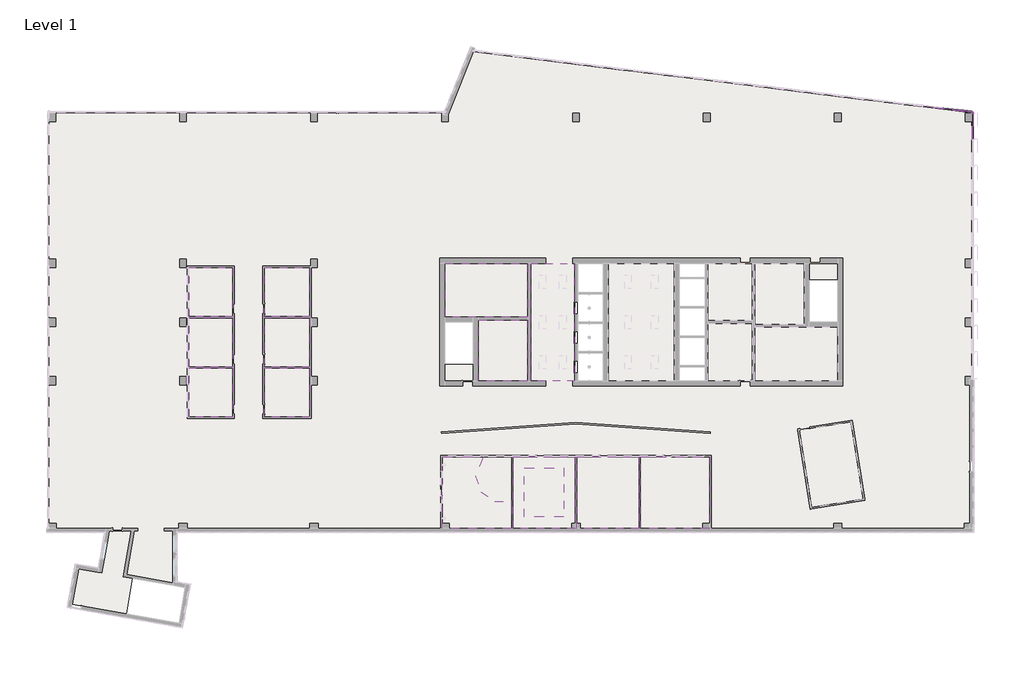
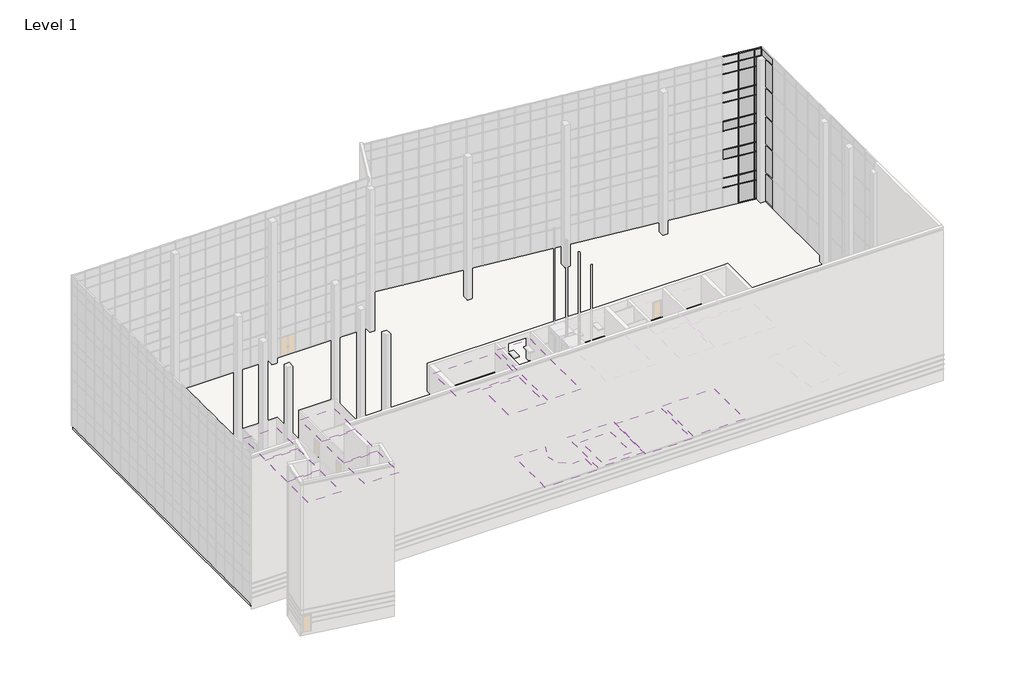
# One storey, part 22 of 23: 57 members, 30 plates, 14 coverings, 1 slab.
"""IFC4 building model written with IfcOpenShell, lengths in millimetres."""

from ifc_helpers import new_model, si_unit, point, frame, frame_2d, origin, place, context, project, spatial, polyline, circle_curve, trimmed, segment, composite_curve, outline, extrude, transform, mapped, element, save
from components import member_148ee976, member_2b49869a, member_f92b8aa2, member_810865a4, member_f0fea5a5, member_6d5c3e5e, member_9764dd38, member_b8a9be14, member_51d7af99, member_28d637ce, member_84e75425, member_62aeda4f, member_2ab0c01c, system_panel_glazed_14c75400, system_panel_glazed_cc37a7cc, system_panel_glazed_4e55321f, system_panel_glazed_b79bd3cf, system_panel_solid_5dfe6f83, system_panel_solid_e25e2004, system_panel_solid_b7551183, system_panel_solid_72787f54, system_panel_solid_2f76c253, system_panel_solid_52d708f1

model = new_model("IFC4")

# Units and contexts
model_context = context("Model", 3, world=origin())
ifc_project = project(units=[si_unit("LENGTHUNIT", "METRE", prefix="MILLI")], contexts=[model_context])

# Site, building, storey
site = spatial("IfcSite", under=ifc_project)
building = spatial("IfcBuilding", under=site)
storey = spatial("IfcBuildingStorey", under=building, Name="Level 1", Elevation=0.0)

# Coverings
placement = place(None, origin())
element("IfcCovering", 1, ObjectType="2' x 2' ACT System", at=placement, inside=storey, context=model_context, shape_type="SweptSolid", body=[
    extrude(outline(polyline([(-49131.3999355, -4066.5103492), (-44991.1999355, -4066.5103492), (-44991.1999355, -8511.5103492), (-49131.3999355, -8511.5103492), (-49131.3999355, -4066.5103492)])), frame((0.0, 0.0, 2438.4), z_axis=(0.0, 0.0, 1.0), x_axis=(1.0, 0.0, 0.0)), (0.0, 0.0, 1.0), 57.15),
])
element("IfcCovering", 2, ObjectType="2' x 2' ACT System", at=placement, inside=storey, context=model_context, shape_type="SweptSolid", body=[
    extrude(outline(polyline([(-44991.1999355, -8638.5103492), (-44991.1999355, -13083.5103492), (-49131.3999355, -13083.5103492), (-49131.3999355, -8638.5103492), (-44991.1999355, -8638.5103492)])), frame((0.0, 0.0, 2438.4), z_axis=(0.0, 0.0, 1.0), x_axis=(1.0, 0.0, 0.0)), (0.0, 0.0, 1.0), 57.15),
])
element("IfcCovering", 3, ObjectType="2' x 2' ACT System", at=placement, inside=storey, context=model_context, shape_type="SweptSolid", body=[
    extrude(outline(polyline([(-44991.1999355, -13210.5103492), (-44991.1999355, -17655.5103492), (-49131.3999355, -17655.5103492), (-49131.3999355, -13210.5103492), (-44991.1999355, -13210.5103492)])), frame((0.0, 0.0, 2438.4), z_axis=(0.0, 0.0, 1.0), x_axis=(1.0, 0.0, 0.0)), (0.0, 0.0, 1.0), 57.15),
])
element("IfcCovering", 4, ObjectType="2' x 2' ACT System", at=placement, inside=storey, context=model_context, shape_type="SweptSolid", body=[
    extrude(outline(polyline([(-51987.0856498, -17655.5103492), (-56000.2856498, -17655.5103492), (-56000.2856498, -13210.5103492), (-51987.0856498, -13210.5103492), (-51987.0856498, -17655.5103492)])), frame((0.0, 0.0, 2438.4), z_axis=(0.0, 0.0, 1.0), x_axis=(1.0, 0.0, 0.0)), (0.0, 0.0, 1.0), 57.15),
])
element("IfcCovering", 5, ObjectType="2' x 2' ACT System", at=placement, inside=storey, context=model_context, shape_type="SweptSolid", body=[
    extrude(outline(polyline([(-56000.2856498, -13083.5103492), (-56000.2856498, -8638.5103492), (-51987.0856498, -8638.5103492), (-51987.0856498, -13083.5103492), (-56000.2856498, -13083.5103492)])), frame((0.0, 0.0, 2438.4), z_axis=(0.0, 0.0, 1.0), x_axis=(1.0, 0.0, 0.0)), (0.0, 0.0, 1.0), 57.15),
])
element("IfcCovering", 6, ObjectType="2' x 2' ACT System", at=placement, inside=storey, context=model_context, shape_type="SweptSolid", body=[
    extrude(outline(polyline([(-56000.2856498, -8511.5103492), (-56000.2856498, -4066.5103492), (-51987.0856498, -4066.5103492), (-51987.0856498, -8511.5103492), (-56000.2856498, -8511.5103492)])), frame((0.0, 0.0, 2438.4), z_axis=(0.0, 0.0, 1.0), x_axis=(1.0, 0.0, 0.0)), (0.0, 0.0, 1.0), 57.15),
])
element("IfcCovering", 7, ObjectType="2' x 4' ACT System", at=placement, inside=storey, context=model_context, shape_type="SweptSolid", body=[
    extrude(outline(polyline([(-15145.2927926, -21262.3103492), (-15145.2927926, -27729.7853492), (-20814.0285069, -27729.7853492), (-20814.0285069, -21262.3103492), (-15145.2927926, -21262.3103492)]), holes=[polyline([(-15754.8927926, -21871.9103492), (-20204.4285069, -21871.9103492), (-20204.4285069, -27120.1853492), (-15754.8927926, -27120.1853492), (-15754.8927926, -21871.9103492)])]), frame((0.0, 0.0, 2438.4), z_axis=(0.0, 0.0, 1.0), x_axis=(1.0, 0.0, 0.0)), (0.0, 0.0, 1.0), 57.15),
    extrude(outline(polyline([(-16364.4927926, -22481.5103492), (-16364.4927926, -26510.5853492), (-19594.8285069, -26510.5853492), (-19594.8285069, -22481.5103492), (-16364.4927926, -22481.5103492)])), frame((0.0, 0.0, 2438.4), z_axis=(0.0, 0.0, 1.0), x_axis=(1.0, 0.0, 0.0)), (0.0, 0.0, 1.0), 57.15),
])
element("IfcCovering", 8, ObjectType="2' x 4' ACT System", at=placement, inside=storey, context=model_context, shape_type="SweptSolid", body=[
    extrude(outline(polyline([(-24992.3285069, -14366.2103492), (-24992.3285069, -3698.2103492), (-20979.1285069, -3698.2103492), (-20979.1285069, -14366.2103492), (-24992.3285069, -14366.2103492)]), holes=[polyline([(-21766.5285069, -13299.4103492), (-21766.5285069, -12080.2103492), (-22376.1285069, -12080.2103492), (-22376.1285069, -13299.4103492), (-21766.5285069, -13299.4103492)]), polyline([(-23595.3285069, -13299.4103492), (-23595.3285069, -12080.2103492), (-24204.9285069, -12080.2103492), (-24204.9285069, -13299.4103492), (-23595.3285069, -13299.4103492)]), polyline([(-21766.5285069, -9641.8103492), (-21766.5285069, -8422.6103492), (-22376.1285069, -8422.6103492), (-22376.1285069, -9641.8103492), (-21766.5285069, -9641.8103492)]), polyline([(-23595.3285069, -9641.8103492), (-23595.3285069, -8422.6103492), (-24204.9285069, -8422.6103492), (-24204.9285069, -9641.8103492), (-23595.3285069, -9641.8103492)]), polyline([(-21766.5285069, -5984.2103492), (-21766.5285069, -4765.0103492), (-22376.1285069, -4765.0103492), (-22376.1285069, -5984.2103492), (-21766.5285069, -5984.2103492)]), polyline([(-23595.3285069, -5984.2103492), (-23595.3285069, -4765.0103492), (-24204.9285069, -4765.0103492), (-24204.9285069, -5984.2103492), (-23595.3285069, -5984.2103492)])]), frame((0.0, 0.0, 2743.2), z_axis=(0.0, 0.0, 1.0), x_axis=(1.0, 0.0, 0.0)), (0.0, 0.0, 1.0), 57.15),
])
element("IfcCovering", 9, ObjectType="2' x 4' ACT System", at=placement, inside=storey, context=model_context, shape_type="SweptSolid", body=[
    extrude(outline(polyline([(-8750.8427926, -21262.3103492), (-8750.8427926, -27729.7853492), (-15018.2927926, -27729.7853492), (-15018.2927926, -21262.3103492), (-8750.8427926, -21262.3103492)]), holes=[polyline([(-14065.7927926, -26713.7853492), (-9766.8427926, -26713.7853492), (-9766.8427926, -22214.8103492), (-14065.7927926, -22214.8103492), (-14065.7927926, -26713.7853492)])]), frame((0.0, 0.0, 2743.2), z_axis=(0.0, 0.0, 1.0), x_axis=(1.0, 0.0, 0.0)), (0.0, 0.0, 1.0), 57.15),
])
element("IfcCovering", 10, ObjectType="2' x 4' ACT System", at=placement, inside=storey, context=model_context, shape_type="SweptSolid", body=[
    extrude(outline(polyline([(-21957.0285069, -22278.3103492), (-21957.0285069, -26713.7853492), (-25571.9927926, -26713.7853492), (-25571.9927926, -22278.3103492), (-21957.0285069, -22278.3103492)])), frame((0.0, 0.0, 2438.4), z_axis=(0.0, 0.0, 1.0), x_axis=(1.0, 0.0, 0.0)), (0.0, 0.0, 1.0), 57.15),
])
element("IfcCovering", 11, ObjectType="GWB on Mtl. Stud", at=placement, inside=storey, context=model_context, shape_type="SweptSolid", body=[
    extrude(outline(polyline([(-25246.3285069, -8829.0103492), (-25246.3285069, -14366.2103492), (-29709.4713641, -14366.2103492), (-29709.4713641, -8829.0103492), (-25246.3285069, -8829.0103492)])), frame((0.0, 0.0, 2438.4), z_axis=(0.0, 0.0, 1.0), x_axis=(1.0, 0.0, 0.0)), (0.0, 0.0, 1.0), 107.95),
])
element("IfcCovering", 12, ObjectType="GWB on Mtl. Stud", at=placement, inside=storey, context=model_context, shape_type="SweptSolid", body=[
    extrude(outline(polyline([(-32750.2142212, -3698.2103492), (-25246.3285069, -3698.2103492), (-25246.3285069, -8575.0103492), (-29938.0713641, -8575.0103492), (-32750.2142212, -8575.0103492), (-32750.2142212, -3698.2103492)])), frame((0.0, 0.0, 2438.4), z_axis=(0.0, 0.0, 1.0), x_axis=(1.0, 0.0, 0.0)), (0.0, 0.0, 1.0), 107.95),
])
element("IfcCovering", 13, ObjectType="GWB on Mtl. Stud", at=placement, inside=storey, context=model_context, shape_type="SweptSolid", body=[
    extrude(outline(composite_curve([segment(polyline([(-33004.2142212, -27729.7853492), (-33004.2142212, -21262.3103492), (-29284.0698109, -21262.3103492)]), True, "CONTINUOUS"), segment(trimmed(circle_curve(frame_2d((-27542.3800226, -22968.8598625)), 2438.4), [point((-29284.0698109, -21262.3103492))], [point((-29980.7800226, -22968.8598625))], True, "CARTESIAN"), True, "CONTINUOUS"), segment(trimmed(circle_curve(frame_2d((-27542.3800226, -22968.8598625)), 2438.4), [point((-29980.7800226, -22968.8598625))], [point((-26714.9927926, -25262.595883))], True, "CARTESIAN"), True, "CONTINUOUS"), segment(polyline([(-26714.9927926, -25262.595883), (-26714.9927926, -27729.7853492), (-33004.2142212, -27729.7853492)]), True, "CONTINUOUS")], self_intersect=False), holes=[polyline([(-32127.0605055, -26756.6376676), (-30755.4605055, -26756.6376676), (-30755.4605055, -24927.8376676), (-32127.0605055, -24927.8376676), (-32127.0605055, -26756.6376676)])]), frame((0.0, 0.0, 2438.4), z_axis=(0.0, 0.0, 1.0), x_axis=(1.0, 0.0, 0.0)), (0.0, 0.0, 1.0), 107.95),
])
element("IfcCovering", 14, ObjectType="GWB on Mtl. Stud", at=placement, inside=storey, context=model_context, shape_type="SweptSolid", body=[
    extrude(outline(polyline([(-20941.0285069, -21262.3103492), (-20941.0285069, -27729.7853492), (-26587.9927926, -27729.7853492), (-26587.9927926, -21262.3103492), (-20941.0285069, -21262.3103492)])), frame((0.0, 0.0, 2743.2), z_axis=(0.0, 0.0, 1.0), x_axis=(1.0, 0.0, 0.0)), (0.0, 0.0, 1.0), 107.95),
])

# Members
member_shape = member_148ee976(model_context)
element("IfcMember", 15, ObjectType="Quad Corner Mullion : 5\" x 5\" Quad Corner", at=placement, inside=storey, context=model_context, shape_type="MappedRepresentation", body=[
    mapped(member_shape, transform((15106.8054088, 9928.5486536, 0.0), x_axis=(0.0, 0.0, -1.0), y_axis=(-1.0, 0.0, 0.0), z_axis=(0.0, 1.0, 0.0))),
])
member_2_shape = member_2b49869a(model_context)
element("IfcMember", 16, ObjectType="Rectangular Mullion : 2.5\" x 5\" rectangular", at=placement, inside=storey, context=model_context, shape_type="MappedRepresentation", body=[
    mapped(member_2_shape, transform((12451.1844641, 10342.5479595, 2438.4), x_axis=(0.9925461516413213, -0.12186934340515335, 0.0), y_axis=(-0.12186934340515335, -0.9925461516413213, 0.0), z_axis=(0.0, 0.0, -1.0))),
])
member_3_shape = member_f92b8aa2(model_context)
element("IfcMember", 17, ObjectType="Rectangular Mullion : 2.5\" x 5\" rectangular", at=placement, inside=storey, context=model_context, shape_type="MappedRepresentation", body=[
    mapped(member_3_shape, transform((14266.3528662, 10119.6733043, 18288.0), x_axis=(0.9925461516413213, -0.12186934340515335, 0.0), y_axis=(-0.12186934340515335, -0.9925461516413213, 0.0), z_axis=(0.0, 0.0, -1.0))),
])
element("IfcMember", 18, ObjectType="Rectangular Mullion : 2.5\" x 5\" rectangular", at=placement, inside=storey, context=model_context, shape_type="MappedRepresentation", body=[
    mapped(member_3_shape, transform((12451.1844641, 10342.5479595, 18288.0), x_axis=(0.9925461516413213, -0.12186934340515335, 0.0), y_axis=(-0.12186934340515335, -0.9925461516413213, 0.0), z_axis=(0.0, 0.0, -1.0))),
])
member_4_shape = member_810865a4(model_context)
element("IfcMember", 19, ObjectType="Rectangular Mullion : 2.5\" x 5\" rectangular", at=placement, inside=storey, context=model_context, shape_type="MappedRepresentation", body=[
    mapped(member_4_shape, transform((14266.3528662, 10119.6733043, 14630.4), x_axis=(0.9925461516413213, -0.12186934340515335, 0.0), y_axis=(-0.12186934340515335, -0.9925461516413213, 0.0), z_axis=(0.0, 0.0, -1.0))),
])
element("IfcMember", 20, ObjectType="Rectangular Mullion : 2.5\" x 5\" rectangular", at=placement, inside=storey, context=model_context, shape_type="MappedRepresentation", body=[
    mapped(member_4_shape, transform((14266.3528662, 10119.6733043, 10972.8), x_axis=(0.9925461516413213, -0.12186934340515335, 0.0), y_axis=(-0.12186934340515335, -0.9925461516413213, 0.0), z_axis=(0.0, 0.0, -1.0))),
])
element("IfcMember", 21, ObjectType="Rectangular Mullion : 2.5\" x 5\" rectangular", at=placement, inside=storey, context=model_context, shape_type="MappedRepresentation", body=[
    mapped(member_4_shape, transform((14266.3528662, 10119.6733043, 7315.2), x_axis=(0.9925461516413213, -0.12186934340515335, 0.0), y_axis=(-0.12186934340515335, -0.9925461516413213, 0.0), z_axis=(0.0, 0.0, -1.0))),
])
element("IfcMember", 22, ObjectType="Rectangular Mullion : 2.5\" x 5\" rectangular", at=placement, inside=storey, context=model_context, shape_type="MappedRepresentation", body=[
    mapped(member_4_shape, transform((14266.3528662, 10119.6733043, 3657.6), x_axis=(0.9925461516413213, -0.12186934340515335, 0.0), y_axis=(-0.12186934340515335, -0.9925461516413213, 0.0), z_axis=(0.0, 0.0, -1.0))),
])
element("IfcMember", 23, ObjectType="Rectangular Mullion : 2.5\" x 5\" rectangular", at=placement, inside=storey, context=model_context, shape_type="MappedRepresentation", body=[
    mapped(member_4_shape, transform((12451.1844641, 10342.5479595, 14630.4), x_axis=(0.9925461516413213, -0.12186934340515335, 0.0), y_axis=(-0.12186934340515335, -0.9925461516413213, 0.0), z_axis=(0.0, 0.0, -1.0))),
])
element("IfcMember", 24, ObjectType="Rectangular Mullion : 2.5\" x 5\" rectangular", at=placement, inside=storey, context=model_context, shape_type="MappedRepresentation", body=[
    mapped(member_4_shape, transform((12451.1844641, 10342.5479595, 10972.8), x_axis=(0.9925461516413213, -0.12186934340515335, 0.0), y_axis=(-0.12186934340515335, -0.9925461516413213, 0.0), z_axis=(0.0, 0.0, -1.0))),
])
element("IfcMember", 25, ObjectType="Rectangular Mullion : 2.5\" x 5\" rectangular", at=placement, inside=storey, context=model_context, shape_type="MappedRepresentation", body=[
    mapped(member_4_shape, transform((12451.1844641, 10342.5479595, 7315.2), x_axis=(0.9925461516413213, -0.12186934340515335, 0.0), y_axis=(-0.12186934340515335, -0.9925461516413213, 0.0), z_axis=(0.0, 0.0, -1.0))),
])
element("IfcMember", 26, ObjectType="Rectangular Mullion : 2.5\" x 5\" rectangular", at=placement, inside=storey, context=model_context, shape_type="MappedRepresentation", body=[
    mapped(member_4_shape, transform((12451.1844641, 10342.5479595, 3657.6), x_axis=(0.9925461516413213, -0.12186934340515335, 0.0), y_axis=(-0.12186934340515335, -0.9925461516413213, 0.0), z_axis=(0.0, 0.0, -1.0))),
])
member_5_shape = member_f0fea5a5(model_context)
element("IfcMember", 27, ObjectType="Rectangular Mullion : 2.5\" x 5\" rectangular", at=placement, inside=storey, context=model_context, shape_type="MappedRepresentation", body=[
    mapped(member_5_shape, transform((12451.1844641, 10342.5479595, 0.0), x_axis=(0.9925461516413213, -0.12186934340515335, 0.0), y_axis=(-0.12186934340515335, -0.9925461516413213, 0.0), z_axis=(0.0, 0.0, -1.0))),
])
element("IfcMember", 28, ObjectType="Rectangular Mullion : 2.5\" x 5\" rectangular", at=placement, inside=storey, context=model_context, shape_type="MappedRepresentation", body=[
    mapped(member_5_shape, transform((14266.3528662, 10119.6733043, 0.0), x_axis=(0.9925461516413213, -0.12186934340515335, 0.0), y_axis=(-0.12186934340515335, -0.9925461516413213, 0.0), z_axis=(0.0, 0.0, -1.0))),
])
element("IfcMember", 29, ObjectType="Rectangular Mullion : 2.5\" x 5\" rectangular", at=placement, inside=storey, context=model_context, shape_type="MappedRepresentation", body=[
    mapped(member_2_shape, transform((14266.3528662, 10119.6733043, 2438.4), x_axis=(0.9925461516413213, -0.12186934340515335, 0.0), y_axis=(-0.12186934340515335, -0.9925461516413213, 0.0), z_axis=(0.0, 0.0, -1.0))),
])
member_6_shape = member_6d5c3e5e(model_context)
element("IfcMember", 30, ObjectType="Rectangular Mullion : 2.5\" x 5\" rectangular", at=placement, inside=storey, context=model_context, shape_type="MappedRepresentation", body=[
    mapped(member_6_shape, transform((14234.8395259, 10123.542656, 19304.0), x_axis=(0.0, 0.0, 1.0), y_axis=(-0.12186934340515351, -0.9925461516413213, 0.0), z_axis=(0.9925461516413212, -0.1218693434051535, 0.0))),
])
element("IfcMember", 31, ObjectType="Rectangular Mullion : 2.5\" x 5\" rectangular", at=placement, inside=storey, context=model_context, shape_type="MappedRepresentation", body=[
    mapped(member_6_shape, transform((12419.6711238, 10346.4173112, 19304.0), x_axis=(0.0, 0.0, 1.0), y_axis=(-0.12186934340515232, -0.9925461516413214, 0.0), z_axis=(0.9925461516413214, -0.12186934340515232, 0.0))),
])
member_7_shape = member_9764dd38(model_context)
element("IfcMember", 32, ObjectType="Rectangular Mullion : 2.5\" x 5\" rectangular", at=placement, inside=storey, context=model_context, shape_type="MappedRepresentation", body=[
    mapped(member_7_shape, transform((14234.8395259, 10123.542656, 17068.8), x_axis=(0.0, 0.0, 1.0), y_axis=(-0.12186934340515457, -0.9925461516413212, 0.0), z_axis=(0.9925461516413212, -0.12186934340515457, 0.0))),
])
element("IfcMember", 33, ObjectType="Rectangular Mullion : 2.5\" x 5\" rectangular", at=placement, inside=storey, context=model_context, shape_type="MappedRepresentation", body=[
    mapped(member_7_shape, transform((12419.6711238, 10346.4173112, 17068.8), x_axis=(0.0, 0.0, 1.0), y_axis=(-0.12186934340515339, -0.9925461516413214, 0.0), z_axis=(0.9925461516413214, -0.12186934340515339, 0.0))),
])
element("IfcMember", 34, ObjectType="Rectangular Mullion : 2.5\" x 5\" rectangular", at=placement, inside=storey, context=model_context, shape_type="MappedRepresentation", body=[
    mapped(member_7_shape, transform((14234.8395259, 10123.542656, 13411.2), x_axis=(0.0, 0.0, 1.0), y_axis=(-0.12186934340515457, -0.9925461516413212, 0.0), z_axis=(0.9925461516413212, -0.12186934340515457, 0.0))),
])
element("IfcMember", 35, ObjectType="Rectangular Mullion : 2.5\" x 5\" rectangular", at=placement, inside=storey, context=model_context, shape_type="MappedRepresentation", body=[
    mapped(member_7_shape, transform((12419.6711238, 10346.4173112, 13411.2), x_axis=(0.0, 0.0, 1.0), y_axis=(-0.12186934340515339, -0.9925461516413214, 0.0), z_axis=(0.9925461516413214, -0.12186934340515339, 0.0))),
])
element("IfcMember", 36, ObjectType="Rectangular Mullion : 2.5\" x 5\" rectangular", at=placement, inside=storey, context=model_context, shape_type="MappedRepresentation", body=[
    mapped(member_7_shape, transform((14234.8395259, 10123.542656, 9753.6), x_axis=(0.0, 0.0, 1.0), y_axis=(-0.12186934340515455, -0.9925461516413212, 0.0), z_axis=(0.9925461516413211, -0.12186934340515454, 0.0))),
])
element("IfcMember", 37, ObjectType="Rectangular Mullion : 2.5\" x 5\" rectangular", at=placement, inside=storey, context=model_context, shape_type="MappedRepresentation", body=[
    mapped(member_7_shape, transform((12419.6711238, 10346.4173112, 9753.6), x_axis=(0.0, 0.0, 1.0), y_axis=(-0.12186934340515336, -0.9925461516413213, 0.0), z_axis=(0.9925461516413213, -0.12186934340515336, 0.0))),
])
element("IfcMember", 38, ObjectType="Rectangular Mullion : 2.5\" x 5\" rectangular", at=placement, inside=storey, context=model_context, shape_type="MappedRepresentation", body=[
    mapped(member_7_shape, transform((14234.8395259, 10123.542656, 6096.0), x_axis=(0.0, 0.0, 1.0), y_axis=(-0.12186934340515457, -0.9925461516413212, 0.0), z_axis=(0.9925461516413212, -0.12186934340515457, 0.0))),
])
element("IfcMember", 39, ObjectType="Rectangular Mullion : 2.5\" x 5\" rectangular", at=placement, inside=storey, context=model_context, shape_type="MappedRepresentation", body=[
    mapped(member_7_shape, transform((12419.6711238, 10346.4173112, 6096.0), x_axis=(0.0, 0.0, 1.0), y_axis=(-0.12186934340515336, -0.9925461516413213, 0.0), z_axis=(0.9925461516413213, -0.12186934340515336, 0.0))),
])
element("IfcMember", 40, ObjectType="Rectangular Mullion : 2.5\" x 5\" rectangular", at=placement, inside=storey, context=model_context, shape_type="MappedRepresentation", body=[
    mapped(member_7_shape, transform((14234.8395259, 10123.542656, 2470.15), x_axis=(0.0, 0.0, 1.0), y_axis=(-0.12186934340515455, -0.9925461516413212, 0.0), z_axis=(0.9925461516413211, -0.12186934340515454, 0.0))),
])
element("IfcMember", 41, ObjectType="Rectangular Mullion : 2.5\" x 5\" rectangular", at=placement, inside=storey, context=model_context, shape_type="MappedRepresentation", body=[
    mapped(member_7_shape, transform((12419.6711238, 10346.4173112, 2470.15), x_axis=(0.0, 0.0, 1.0), y_axis=(-0.12186934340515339, -0.9925461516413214, 0.0), z_axis=(0.9925461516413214, -0.12186934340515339, 0.0))),
])
member_8_shape = member_b8a9be14(model_context)
element("IfcMember", 42, ObjectType="Rectangular Mullion : 2.5\" x 5\" rectangular", at=placement, inside=storey, context=model_context, shape_type="MappedRepresentation", body=[
    mapped(member_8_shape, transform((15019.5307718, 10027.1946859, 19304.0), x_axis=(0.0, 0.0, 1.0), y_axis=(-0.12186934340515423, -0.9925461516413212, 0.0), z_axis=(0.9925461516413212, -0.12186934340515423, 0.0))),
])
member_9_shape = member_51d7af99(model_context)
element("IfcMember", 43, ObjectType="Rectangular Mullion : 2.5\" x 5\" rectangular", at=placement, inside=storey, context=model_context, shape_type="MappedRepresentation", body=[
    mapped(member_9_shape, transform((15019.5307718, 10027.1946859, 17068.8), x_axis=(0.0, 0.0, 1.0), y_axis=(-0.12186934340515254, -0.9925461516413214, 0.0), z_axis=(0.9925461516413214, -0.12186934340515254, 0.0))),
])
element("IfcMember", 44, ObjectType="Rectangular Mullion : 2.5\" x 5\" rectangular", at=placement, inside=storey, context=model_context, shape_type="MappedRepresentation", body=[
    mapped(member_9_shape, transform((15019.5307718, 10027.1946859, 13411.2), x_axis=(0.0, 0.0, 1.0), y_axis=(-0.12186934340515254, -0.9925461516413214, 0.0), z_axis=(0.9925461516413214, -0.12186934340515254, 0.0))),
])
element("IfcMember", 45, ObjectType="Rectangular Mullion : 2.5\" x 5\" rectangular", at=placement, inside=storey, context=model_context, shape_type="MappedRepresentation", body=[
    mapped(member_9_shape, transform((15019.5307718, 10027.1946859, 9753.6), x_axis=(0.0, 0.0, 1.0), y_axis=(-0.12186934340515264, -0.9925461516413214, 0.0), z_axis=(0.9925461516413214, -0.12186934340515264, 0.0))),
])
element("IfcMember", 46, ObjectType="Rectangular Mullion : 2.5\" x 5\" rectangular", at=placement, inside=storey, context=model_context, shape_type="MappedRepresentation", body=[
    mapped(member_9_shape, transform((15019.5307718, 10027.1946859, 6096.0), x_axis=(0.0, 0.0, 1.0), y_axis=(-0.12186934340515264, -0.9925461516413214, 0.0), z_axis=(0.9925461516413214, -0.12186934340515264, 0.0))),
])
element("IfcMember", 47, ObjectType="Rectangular Mullion : 2.5\" x 5\" rectangular", at=placement, inside=storey, context=model_context, shape_type="MappedRepresentation", body=[
    mapped(member_6_shape, transform((12482.6978044, 10338.6786079, 0.0), x_axis=(0.0, 0.0, -1.0), y_axis=(-0.12186934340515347, -0.9925461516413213, 0.0), z_axis=(-0.9925461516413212, 0.12186934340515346, 0.0))),
])
element("IfcMember", 48, ObjectType="Rectangular Mullion : 2.5\" x 5\" rectangular", at=placement, inside=storey, context=model_context, shape_type="MappedRepresentation", body=[
    mapped(member_8_shape, transform((14297.8662065, 10115.8039527, 0.0), x_axis=(0.0, 0.0, -1.0), y_axis=(-0.12186934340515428, -0.9925461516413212, 0.0), z_axis=(-0.9925461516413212, 0.12186934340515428, 0.0))),
])
element("IfcMember", 49, ObjectType="Rectangular Mullion : 2.5\" x 5\" rectangular", at=placement, inside=storey, context=model_context, shape_type="MappedRepresentation", body=[
    mapped(member_7_shape, transform((14234.8395259, 10123.542656, 7315.2), x_axis=(0.0, 0.0, 1.0), y_axis=(-0.12186934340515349, -0.9925461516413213, 0.0), z_axis=(0.9925461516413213, -0.12186934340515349, 0.0))),
])
element("IfcMember", 50, ObjectType="Rectangular Mullion : 2.5\" x 5\" rectangular", at=placement, inside=storey, context=model_context, shape_type="MappedRepresentation", body=[
    mapped(member_7_shape, transform((12419.6711238, 10346.4173112, 7315.2), x_axis=(0.0, 0.0, 1.0), y_axis=(-0.12186934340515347, -0.9925461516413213, 0.0), z_axis=(0.9925461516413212, -0.12186934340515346, 0.0))),
])
element("IfcMember", 51, ObjectType="Rectangular Mullion : 2.5\" x 5\" rectangular", at=placement, inside=storey, context=model_context, shape_type="MappedRepresentation", body=[
    mapped(member_7_shape, transform((14234.8395259, 10123.542656, 10972.8), x_axis=(0.0, 0.0, 1.0), y_axis=(-0.12186934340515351, -0.9925461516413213, 0.0), z_axis=(0.9925461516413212, -0.1218693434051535, 0.0))),
])
element("IfcMember", 52, ObjectType="Rectangular Mullion : 2.5\" x 5\" rectangular", at=placement, inside=storey, context=model_context, shape_type="MappedRepresentation", body=[
    mapped(member_7_shape, transform((12419.6711238, 10346.4173112, 10972.8), x_axis=(0.0, 0.0, 1.0), y_axis=(-0.12186934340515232, -0.9925461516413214, 0.0), z_axis=(0.9925461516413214, -0.12186934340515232, 0.0))),
])
element("IfcMember", 53, ObjectType="Rectangular Mullion : 2.5\" x 5\" rectangular", at=placement, inside=storey, context=model_context, shape_type="MappedRepresentation", body=[
    mapped(member_7_shape, transform((12419.6711238, 10346.4173112, 3657.6), x_axis=(0.0, 0.0, 1.0), y_axis=(-0.12186934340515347, -0.9925461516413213, 0.0), z_axis=(0.9925461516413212, -0.12186934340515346, 0.0))),
])
element("IfcMember", 54, ObjectType="Rectangular Mullion : 2.5\" x 5\" rectangular", at=placement, inside=storey, context=model_context, shape_type="MappedRepresentation", body=[
    mapped(member_7_shape, transform((14234.8395259, 10123.542656, 3657.6), x_axis=(0.0, 0.0, 1.0), y_axis=(-0.12186934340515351, -0.9925461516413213, 0.0), z_axis=(0.9925461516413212, -0.1218693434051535, 0.0))),
])
element("IfcMember", 55, ObjectType="Rectangular Mullion : 2.5\" x 5\" rectangular", at=placement, inside=storey, context=model_context, shape_type="MappedRepresentation", body=[
    mapped(member_7_shape, transform((14234.8395259, 10123.542656, 14630.4), x_axis=(0.0, 0.0, 1.0), y_axis=(-0.12186934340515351, -0.9925461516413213, 0.0), z_axis=(0.9925461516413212, -0.1218693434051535, 0.0))),
])
element("IfcMember", 56, ObjectType="Rectangular Mullion : 2.5\" x 5\" rectangular", at=placement, inside=storey, context=model_context, shape_type="MappedRepresentation", body=[
    mapped(member_7_shape, transform((12419.6711238, 10346.4173112, 14630.4), x_axis=(0.0, 0.0, 1.0), y_axis=(-0.12186934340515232, -0.9925461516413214, 0.0), z_axis=(0.9925461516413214, -0.12186934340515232, 0.0))),
])
element("IfcMember", 57, ObjectType="Rectangular Mullion : 2.5\" x 5\" rectangular", at=placement, inside=storey, context=model_context, shape_type="MappedRepresentation", body=[
    mapped(member_7_shape, transform((14234.8395259, 10123.542656, 18288.0), x_axis=(0.0, 0.0, 1.0), y_axis=(-0.12186934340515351, -0.9925461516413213, 0.0), z_axis=(0.9925461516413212, -0.1218693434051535, 0.0))),
])
element("IfcMember", 58, ObjectType="Rectangular Mullion : 2.5\" x 5\" rectangular", at=placement, inside=storey, context=model_context, shape_type="MappedRepresentation", body=[
    mapped(member_7_shape, transform((12419.6711238, 10346.4173112, 18288.0), x_axis=(0.0, 0.0, 1.0), y_axis=(-0.12186934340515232, -0.9925461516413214, 0.0), z_axis=(0.9925461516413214, -0.12186934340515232, 0.0))),
])
element("IfcMember", 59, ObjectType="Rectangular Mullion : 2.5\" x 5\" rectangular", at=placement, inside=storey, context=model_context, shape_type="MappedRepresentation", body=[
    mapped(member_9_shape, transform((15019.5307718, 10027.1946859, 7315.2), x_axis=(0.0, 0.0, 1.0), y_axis=(-0.12186934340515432, -0.9925461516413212, 0.0), z_axis=(0.9925461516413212, -0.12186934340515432, 0.0))),
])
element("IfcMember", 60, ObjectType="Rectangular Mullion : 2.5\" x 5\" rectangular", at=placement, inside=storey, context=model_context, shape_type="MappedRepresentation", body=[
    mapped(member_9_shape, transform((15019.5307718, 10027.1946859, 10972.8), x_axis=(0.0, 0.0, 1.0), y_axis=(-0.12186934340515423, -0.9925461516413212, 0.0), z_axis=(0.9925461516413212, -0.12186934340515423, 0.0))),
])
element("IfcMember", 61, ObjectType="Rectangular Mullion : 2.5\" x 5\" rectangular", at=placement, inside=storey, context=model_context, shape_type="MappedRepresentation", body=[
    mapped(member_9_shape, transform((15019.5307718, 10027.1946859, 3657.6), x_axis=(0.0, 0.0, 1.0), y_axis=(-0.12186934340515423, -0.9925461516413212, 0.0), z_axis=(0.9925461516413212, -0.12186934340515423, 0.0))),
])
element("IfcMember", 62, ObjectType="Rectangular Mullion : 2.5\" x 5\" rectangular", at=placement, inside=storey, context=model_context, shape_type="MappedRepresentation", body=[
    mapped(member_9_shape, transform((15019.5307718, 10027.1946859, 14630.4), x_axis=(0.0, 0.0, 1.0), y_axis=(-0.12186934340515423, -0.9925461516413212, 0.0), z_axis=(0.9925461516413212, -0.12186934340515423, 0.0))),
])
element("IfcMember", 63, ObjectType="Rectangular Mullion : 2.5\" x 5\" rectangular", at=placement, inside=storey, context=model_context, shape_type="MappedRepresentation", body=[
    mapped(member_9_shape, transform((15019.5307718, 10027.1946859, 18288.0), x_axis=(0.0, 0.0, 1.0), y_axis=(-0.12186934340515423, -0.9925461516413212, 0.0), z_axis=(0.9925461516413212, -0.12186934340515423, 0.0))),
])
element("IfcMember", 64, ObjectType="Rectangular Mullion : 2.5\" x 5\" rectangular", at=placement, inside=storey, context=model_context, shape_type="MappedRepresentation", body=[
    mapped(member_9_shape, transform((15019.5307718, 10027.1946859, 2438.4), x_axis=(0.0, 0.0, 1.0), y_axis=(-0.12186934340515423, -0.9925461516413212, 0.0), z_axis=(0.9925461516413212, -0.12186934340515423, 0.0))),
])
member_10_shape = member_28d637ce(model_context)
element("IfcMember", 65, ObjectType="V Corner Mullion : 5\" V Corner", at=placement, inside=storey, context=model_context, shape_type="MappedRepresentation", body=[
    mapped(member_10_shape, transform((15106.8054088, 10016.4787079, 0.0), x_axis=(0.9925461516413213, -0.12186934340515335, 0.0), y_axis=(-0.12186934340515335, -0.9925461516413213, 0.0), z_axis=(0.0, 0.0, -1.0))),
])
member_11_shape = member_84e75425(model_context)
element("IfcMember", 66, ObjectType="V Corner Mullion : 5\" V Corner", at=placement, inside=storey, context=model_context, shape_type="MappedRepresentation", body=[
    mapped(member_11_shape, transform((15106.8054088, 10016.4787079, 2438.4), x_axis=(0.9925461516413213, -0.12186934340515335, 0.0), y_axis=(-0.12186934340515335, -0.9925461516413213, 0.0), z_axis=(0.0, 0.0, -1.0))),
])
member_12_shape = member_62aeda4f(model_context)
element("IfcMember", 67, ObjectType="V Corner Mullion : 5\" V Corner", at=placement, inside=storey, context=model_context, shape_type="MappedRepresentation", body=[
    mapped(member_12_shape, transform((15106.8054088, 10016.4787079, 18288.0), x_axis=(0.9925461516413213, -0.12186934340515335, 0.0), y_axis=(-0.12186934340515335, -0.9925461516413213, 0.0), z_axis=(0.0, 0.0, -1.0))),
])
member_13_shape = member_2ab0c01c(model_context)
element("IfcMember", 68, ObjectType="V Corner Mullion : 5\" V Corner", at=placement, inside=storey, context=model_context, shape_type="MappedRepresentation", body=[
    mapped(member_13_shape, transform((15106.8054088, 10016.4787079, 14630.4), x_axis=(0.9925461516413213, -0.12186934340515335, 0.0), y_axis=(-0.12186934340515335, -0.9925461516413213, 0.0), z_axis=(0.0, 0.0, -1.0))),
])
element("IfcMember", 69, ObjectType="V Corner Mullion : 5\" V Corner", at=placement, inside=storey, context=model_context, shape_type="MappedRepresentation", body=[
    mapped(member_13_shape, transform((15106.8054088, 10016.4787079, 10972.8), x_axis=(0.9925461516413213, -0.12186934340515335, 0.0), y_axis=(-0.12186934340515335, -0.9925461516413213, 0.0), z_axis=(0.0, 0.0, -1.0))),
])
element("IfcMember", 70, ObjectType="V Corner Mullion : 5\" V Corner", at=placement, inside=storey, context=model_context, shape_type="MappedRepresentation", body=[
    mapped(member_13_shape, transform((15106.8054088, 10016.4787079, 7315.2), x_axis=(0.9925461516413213, -0.12186934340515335, 0.0), y_axis=(-0.12186934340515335, -0.9925461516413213, 0.0), z_axis=(0.0, 0.0, -1.0))),
])
element("IfcMember", 71, ObjectType="V Corner Mullion : 5\" V Corner", at=placement, inside=storey, context=model_context, shape_type="MappedRepresentation", body=[
    mapped(member_13_shape, transform((15106.8054088, 10016.4787079, 3657.6), x_axis=(0.9925461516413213, -0.12186934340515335, 0.0), y_axis=(-0.12186934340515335, -0.9925461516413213, 0.0), z_axis=(0.0, 0.0, -1.0))),
])

# Plates
system_panel_glazed_shape = system_panel_glazed_14c75400(model_context)
element("IfcPlate", 72, ObjectType="System Panel : Glazed", at=placement, inside=storey, context=model_context, shape_type="MappedRepresentation", body=[
    mapped(system_panel_glazed_shape, transform((13358.7686652, 10231.1106319, 14662.15), x_axis=(0.9925461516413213, -0.12186934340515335, 0.0), y_axis=(0.12186934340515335, 0.9925461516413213, 0.0), z_axis=(0.0, 0.0, 1.0))),
])
element("IfcPlate", 73, ObjectType="System Panel : Glazed", at=placement, inside=storey, context=model_context, shape_type="MappedRepresentation", body=[
    mapped(system_panel_glazed_shape, transform((13358.7686652, 10231.1106319, 11004.55), x_axis=(0.9925461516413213, -0.12186934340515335, 0.0), y_axis=(0.12186934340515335, 0.9925461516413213, 0.0), z_axis=(0.0, 0.0, 1.0))),
])
element("IfcPlate", 74, ObjectType="System Panel : Glazed", at=placement, inside=storey, context=model_context, shape_type="MappedRepresentation", body=[
    mapped(system_panel_glazed_shape, transform((13358.7686652, 10231.1106319, 7346.95), x_axis=(0.9925461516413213, -0.12186934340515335, 0.0), y_axis=(0.12186934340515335, 0.9925461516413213, 0.0), z_axis=(0.0, 0.0, 1.0))),
])
element("IfcPlate", 75, ObjectType="System Panel : Glazed", at=placement, inside=storey, context=model_context, shape_type="MappedRepresentation", body=[
    mapped(system_panel_glazed_shape, transform((13358.7686652, 10231.1106319, 3689.35), x_axis=(0.9925461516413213, -0.12186934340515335, 0.0), y_axis=(0.12186934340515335, 0.9925461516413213, 0.0), z_axis=(0.0, 0.0, 1.0))),
])
element("IfcPlate", 76, ObjectType="System Panel : Glazed", at=placement, inside=storey, context=model_context, shape_type="MappedRepresentation", body=[
    mapped(system_panel_glazed_shape, transform((13358.7686652, 10231.1106319, 63.5), x_axis=(0.9925461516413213, -0.12186934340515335, 0.0), y_axis=(0.12186934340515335, 0.9925461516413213, 0.0), z_axis=(0.0, 0.0, 1.0))),
])
system_panel_glazed_2_shape = system_panel_glazed_cc37a7cc(model_context)
element("IfcPlate", 77, ObjectType="System Panel : Glazed", at=placement, inside=storey, context=model_context, shape_type="MappedRepresentation", body=[
    mapped(system_panel_glazed_2_shape, transform((14658.6984892, 10071.4993193, 14662.15), x_axis=(0.9925461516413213, -0.12186934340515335, 0.0), y_axis=(0.12186934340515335, 0.9925461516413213, 0.0), z_axis=(0.0, 0.0, 1.0))),
])
element("IfcPlate", 78, ObjectType="System Panel : Glazed", at=placement, inside=storey, context=model_context, shape_type="MappedRepresentation", body=[
    mapped(system_panel_glazed_2_shape, transform((14658.6984892, 10071.4993193, 11004.55), x_axis=(0.9925461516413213, -0.12186934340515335, 0.0), y_axis=(0.12186934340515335, 0.9925461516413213, 0.0), z_axis=(0.0, 0.0, 1.0))),
])
element("IfcPlate", 79, ObjectType="System Panel : Glazed", at=placement, inside=storey, context=model_context, shape_type="MappedRepresentation", body=[
    mapped(system_panel_glazed_2_shape, transform((14658.6984892, 10071.4993193, 7346.95), x_axis=(0.9925461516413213, -0.12186934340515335, 0.0), y_axis=(0.12186934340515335, 0.9925461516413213, 0.0), z_axis=(0.0, 0.0, 1.0))),
])
element("IfcPlate", 80, ObjectType="System Panel : Glazed", at=placement, inside=storey, context=model_context, shape_type="MappedRepresentation", body=[
    mapped(system_panel_glazed_2_shape, transform((14658.6984892, 10071.4993193, 3689.35), x_axis=(0.9925461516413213, -0.12186934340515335, 0.0), y_axis=(0.12186934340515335, 0.9925461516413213, 0.0), z_axis=(0.0, 0.0, 1.0))),
])
system_panel_glazed_3_shape = system_panel_glazed_4e55321f(model_context)
element("IfcPlate", 81, ObjectType="System Panel : Glazed", at=placement, inside=storey, context=model_context, shape_type="MappedRepresentation", body=[
    mapped(system_panel_glazed_3_shape, transform((14658.6984892, 10071.4993193, 63.5), x_axis=(0.9925461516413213, -0.12186934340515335, 0.0), y_axis=(0.12186934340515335, 0.9925461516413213, 0.0), z_axis=(0.0, 0.0, 1.0))),
])
system_panel_glazed_4_shape = system_panel_glazed_b79bd3cf(model_context)
element("IfcPlate", 82, ObjectType="System Panel : Glazed", at=placement, inside=storey, context=model_context, shape_type="MappedRepresentation", body=[
    mapped(system_panel_glazed_4_shape, transform((15106.8054088, 8751.6725785, 40.7728811), x_axis=(0.0, -1.0, 0.0), y_axis=(1.0, 0.0, 0.0), z_axis=(0.0, 0.0, 1.0))),
])
element("IfcPlate", 83, ObjectType="System Panel : Glazed", at=placement, inside=storey, context=model_context, shape_type="MappedRepresentation", body=[
    mapped(system_panel_glazed_4_shape, transform((15106.8054088, 8751.6725785, 3698.3728811), x_axis=(0.0, -1.0, 0.0), y_axis=(1.0, 0.0, 0.0), z_axis=(0.0, 0.0, 1.0))),
])
element("IfcPlate", 84, ObjectType="System Panel : Glazed", at=placement, inside=storey, context=model_context, shape_type="MappedRepresentation", body=[
    mapped(system_panel_glazed_4_shape, transform((15106.8054088, 8751.6725785, 7355.9728811), x_axis=(0.0, -1.0, 0.0), y_axis=(1.0, 0.0, 0.0), z_axis=(0.0, 0.0, 1.0))),
])
element("IfcPlate", 85, ObjectType="System Panel : Glazed", at=placement, inside=storey, context=model_context, shape_type="MappedRepresentation", body=[
    mapped(system_panel_glazed_4_shape, transform((15106.8054088, 8751.6725785, 11013.5728811), x_axis=(0.0, -1.0, 0.0), y_axis=(1.0, 0.0, 0.0), z_axis=(0.0, 0.0, 1.0))),
])
element("IfcPlate", 86, ObjectType="System Panel : Glazed", at=placement, inside=storey, context=model_context, shape_type="MappedRepresentation", body=[
    mapped(system_panel_glazed_4_shape, transform((15106.8054088, 8751.6725785, 14671.1728811), x_axis=(0.0, -1.0, 0.0), y_axis=(1.0, 0.0, 0.0), z_axis=(0.0, 0.0, 1.0))),
])
system_panel_solid_shape = system_panel_solid_5dfe6f83(model_context)
element("IfcPlate", 87, ObjectType="System Panel : Solid", at=placement, inside=storey, context=model_context, shape_type="MappedRepresentation", body=[
    mapped(system_panel_solid_shape, transform((13358.7686652, 10231.1106319, 18319.75), x_axis=(0.9925461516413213, -0.12186934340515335, 0.0), y_axis=(0.12186934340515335, 0.9925461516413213, 0.0), z_axis=(0.0, 0.0, 1.0))),
])
system_panel_solid_2_shape = system_panel_solid_e25e2004(model_context)
element("IfcPlate", 88, ObjectType="System Panel : Solid", at=placement, inside=storey, context=model_context, shape_type="MappedRepresentation", body=[
    mapped(system_panel_solid_2_shape, transform((13358.7686652, 10231.1106319, 17100.55), x_axis=(0.9925461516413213, -0.12186934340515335, 0.0), y_axis=(0.12186934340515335, 0.9925461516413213, 0.0), z_axis=(0.0, 0.0, 1.0))),
])
element("IfcPlate", 89, ObjectType="System Panel : Solid", at=placement, inside=storey, context=model_context, shape_type="MappedRepresentation", body=[
    mapped(system_panel_solid_2_shape, transform((13358.7686652, 10231.1106319, 13442.95), x_axis=(0.9925461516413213, -0.12186934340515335, 0.0), y_axis=(0.12186934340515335, 0.9925461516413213, 0.0), z_axis=(0.0, 0.0, 1.0))),
])
element("IfcPlate", 90, ObjectType="System Panel : Solid", at=placement, inside=storey, context=model_context, shape_type="MappedRepresentation", body=[
    mapped(system_panel_solid_2_shape, transform((13358.7686652, 10231.1106319, 9785.35), x_axis=(0.9925461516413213, -0.12186934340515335, 0.0), y_axis=(0.12186934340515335, 0.9925461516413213, 0.0), z_axis=(0.0, 0.0, 1.0))),
])
element("IfcPlate", 91, ObjectType="System Panel : Solid", at=placement, inside=storey, context=model_context, shape_type="MappedRepresentation", body=[
    mapped(system_panel_solid_2_shape, transform((11543.600263, 10453.9852872, 9785.35), x_axis=(0.9925461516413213, -0.12186934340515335, 0.0), y_axis=(0.12186934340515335, 0.9925461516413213, 0.0), z_axis=(0.0, 0.0, 1.0))),
])
element("IfcPlate", 92, ObjectType="System Panel : Solid", at=placement, inside=storey, context=model_context, shape_type="MappedRepresentation", body=[
    mapped(system_panel_solid_2_shape, transform((13358.7686652, 10231.1106319, 6127.75), x_axis=(0.9925461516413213, -0.12186934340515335, 0.0), y_axis=(0.12186934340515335, 0.9925461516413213, 0.0), z_axis=(0.0, 0.0, 1.0))),
])
element("IfcPlate", 93, ObjectType="System Panel : Solid", at=placement, inside=storey, context=model_context, shape_type="MappedRepresentation", body=[
    mapped(system_panel_solid_2_shape, transform((11543.600263, 10453.9852872, 6127.75), x_axis=(0.9925461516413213, -0.12186934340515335, 0.0), y_axis=(0.12186934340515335, 0.9925461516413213, 0.0), z_axis=(0.0, 0.0, 1.0))),
])
system_panel_solid_3_shape = system_panel_solid_b7551183(model_context)
element("IfcPlate", 94, ObjectType="System Panel : Solid", at=placement, inside=storey, context=model_context, shape_type="MappedRepresentation", body=[
    mapped(system_panel_solid_3_shape, transform((13358.7686652, 10231.1106319, 2501.9), x_axis=(0.9925461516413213, -0.12186934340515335, 0.0), y_axis=(0.12186934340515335, 0.9925461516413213, 0.0), z_axis=(0.0, 0.0, 1.0))),
])
system_panel_solid_4_shape = system_panel_solid_72787f54(model_context)
element("IfcPlate", 95, ObjectType="System Panel : Solid", at=placement, inside=storey, context=model_context, shape_type="MappedRepresentation", body=[
    mapped(system_panel_solid_4_shape, transform((14658.6984892, 10071.4993193, 18319.75), x_axis=(0.9925461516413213, -0.12186934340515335, 0.0), y_axis=(0.12186934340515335, 0.9925461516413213, 0.0), z_axis=(0.0, 0.0, 1.0))),
])
system_panel_solid_5_shape = system_panel_solid_2f76c253(model_context)
element("IfcPlate", 96, ObjectType="System Panel : Solid", at=placement, inside=storey, context=model_context, shape_type="MappedRepresentation", body=[
    mapped(system_panel_solid_5_shape, transform((14658.6984892, 10071.4993193, 2470.15), x_axis=(0.9925461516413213, -0.12186934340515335, 0.0), y_axis=(0.12186934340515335, 0.9925461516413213, 0.0), z_axis=(0.0, 0.0, 1.0))),
])
element("IfcPlate", 97, ObjectType="System Panel : Solid", at=placement, inside=storey, context=model_context, shape_type="MappedRepresentation", body=[
    mapped(system_panel_solid_5_shape, transform((14658.6984892, 10071.4993193, 17100.55), x_axis=(0.9925461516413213, -0.12186934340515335, 0.0), y_axis=(0.12186934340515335, 0.9925461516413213, 0.0), z_axis=(0.0, 0.0, 1.0))),
])
element("IfcPlate", 98, ObjectType="System Panel : Solid", at=placement, inside=storey, context=model_context, shape_type="MappedRepresentation", body=[
    mapped(system_panel_solid_5_shape, transform((14658.6984892, 10071.4993193, 13442.95), x_axis=(0.9925461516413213, -0.12186934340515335, 0.0), y_axis=(0.12186934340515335, 0.9925461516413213, 0.0), z_axis=(0.0, 0.0, 1.0))),
])
element("IfcPlate", 99, ObjectType="System Panel : Solid", at=placement, inside=storey, context=model_context, shape_type="MappedRepresentation", body=[
    mapped(system_panel_solid_5_shape, transform((14658.6984892, 10071.4993193, 9785.35), x_axis=(0.9925461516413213, -0.12186934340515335, 0.0), y_axis=(0.12186934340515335, 0.9925461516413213, 0.0), z_axis=(0.0, 0.0, 1.0))),
])
element("IfcPlate", 100, ObjectType="System Panel : Solid", at=placement, inside=storey, context=model_context, shape_type="MappedRepresentation", body=[
    mapped(system_panel_solid_5_shape, transform((14658.6984892, 10071.4993193, 6127.75), x_axis=(0.9925461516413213, -0.12186934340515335, 0.0), y_axis=(0.12186934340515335, 0.9925461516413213, 0.0), z_axis=(0.0, 0.0, 1.0))),
])
system_panel_solid_6_shape = system_panel_solid_52d708f1(model_context)
element("IfcPlate", 101, ObjectType="System Panel : Solid", at=placement, inside=storey, context=model_context, shape_type="MappedRepresentation", body=[
    mapped(system_panel_solid_6_shape, transform((15106.8054088, 8751.6725785, 18328.7728811), x_axis=(0.0, -1.0, 0.0), y_axis=(1.0, 0.0, 0.0), z_axis=(0.0, 0.0, 1.0))),
])

# Slab
element("IfcSlab", 102, ObjectType="Steel Bar Joist 14\" - Concrete", at=placement, inside=storey, context=model_context, shape_type="SweptSolid", body=[
    extrude(outline(polyline([(-68660.7599961, -27742.4853492), (-68660.7599961, 9954.2896508), (-32421.4843139, 9954.2896508), (-30175.817983, 15512.5088637), (15043.3054088, 9960.2986536), (15043.3054088, -14218.4266737), (14830.5804088, -14218.4266737), (14830.5804088, -27735.220667), (-57415.8125003, -27735.220667), (-57415.8125003, -32919.911766), (-61087.9334678, -32272.417763), (-61658.0117526, -35505.4923758), (-66551.3983764, -34642.656287), (-65981.3200915, -31409.5816742), (-63880.1342697, -31780.0774261), (-63168.1978494, -27742.4853492), (-68660.7599961, -27742.4853492)]), holes=[polyline([(-32750.2142212, -9032.2103492), (-32750.2142212, -12842.2103492), (-30166.6713641, -12842.2103492), (-30166.6713641, -9032.2103492), (-32750.2142212, -9032.2103492)]), polyline([(-20725.1285069, -3698.2103492), (-20725.1285069, -14366.2103492), (-18385.1284437, -14366.2103492), (-18385.1284437, -3698.2103492), (-20725.1285069, -3698.2103492)]), polyline([(-9157.2427926, -3698.2103492), (-11497.2428559, -3698.2103492), (-11497.2428559, -14366.2103492), (-9157.2427926, -14366.2103492), (-9157.2427926, -3698.2103492)]), polyline([(2867.8429217, -9032.2103492), (2867.8429217, -5222.2103492), (284.3000645, -5222.2103492), (284.3000645, -9032.2103492), (2867.8429217, -9032.2103492)])]), frame((0.0, 0.0, -434.975), z_axis=(0.0, 0.0, 1.0), x_axis=(1.0, 0.0, 0.0)), (0.0, 0.0, 1.0), 434.975),
])

save(model, "model.ifc")
